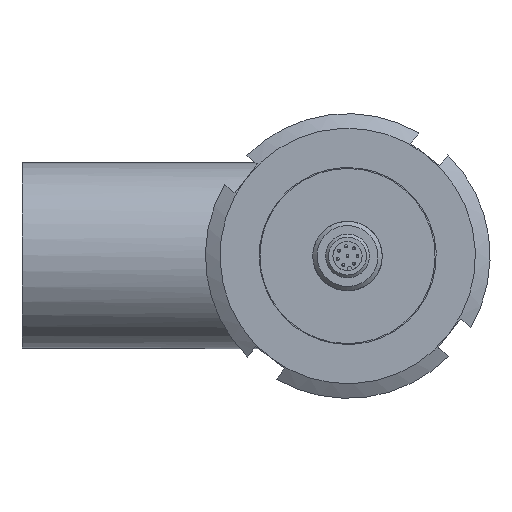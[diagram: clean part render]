
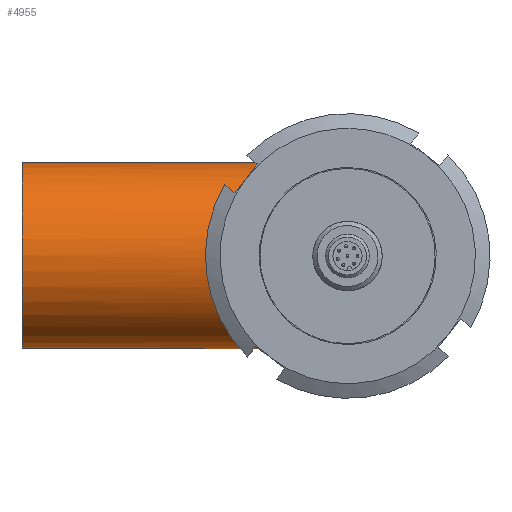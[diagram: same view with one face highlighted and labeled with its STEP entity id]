
A CAD part, front view. The second image highlights one B-rep face of the part: STEP entity #4955.
In plain terms, the highlighted cylindrical face has radius 25.475 mm (diameter 50.951 mm), a full revolution.
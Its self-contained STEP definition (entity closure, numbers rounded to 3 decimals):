
#53=ELLIPSE('',#5266,36.027,25.475);
#54=ELLIPSE('',#5267,36.027,25.475);
#667=CYLINDRICAL_SURFACE('',#5265,25.475);
#1612=ORIENTED_EDGE('',*,*,#2105,.T.);
#1613=ORIENTED_EDGE('',*,*,#2107,.T.);
#1614=ORIENTED_EDGE('',*,*,#2108,.T.);
#2105=EDGE_CURVE('',#2449,#2449,#2582,.T.);
#2107=EDGE_CURVE('',#2451,#2452,#53,.T.);
#2108=EDGE_CURVE('',#2452,#2451,#54,.F.);
#2449=VERTEX_POINT('',#11368);
#2451=VERTEX_POINT('',#11374);
#2452=VERTEX_POINT('',#11375);
#2582=CIRCLE('',#5262,25.475);
#2901=EDGE_LOOP('',(#1612));
#2902=EDGE_LOOP('',(#1613,#1614));
#3238=FACE_BOUND('',#2901,.T.);
#3239=FACE_BOUND('',#2902,.T.);
#4955=ADVANCED_FACE('',(#3238,#3239),#667,.T.);
#5262=AXIS2_PLACEMENT_3D('',#11367,#5984,#5985);
#5265=AXIS2_PLACEMENT_3D('',#11372,#5990,#5991);
#5266=AXIS2_PLACEMENT_3D('',#11373,#5992,#5993);
#5267=AXIS2_PLACEMENT_3D('',#11376,#5994,#5995);
#5984=DIRECTION('',(1.,0.,-0.002));
#5985=DIRECTION('',(0.,1.,0.));
#5990=DIRECTION('',(1.,0.,-0.002));
#5991=DIRECTION('',(-0.002,0.,-1.));
#5992=DIRECTION('',(-0.707,-0.707,0.002));
#5993=DIRECTION('',(0.707,-0.707,-0.002));
#5994=DIRECTION('',(0.707,-0.707,-0.002));
#5995=DIRECTION('',(-0.707,-0.707,0.002));
#11367=CARTESIAN_POINT('',(-89.19,-10.141,0.205));
#11368=CARTESIAN_POINT('',(-89.19,15.334,0.205));
#11372=CARTESIAN_POINT('',(-91.19,-10.141,0.21));
#11373=CARTESIAN_POINT('',(0.,-10.141,0.));
#11374=CARTESIAN_POINT('',(0.059,-10.141,25.475));
#11375=CARTESIAN_POINT('',(-0.059,-10.141,-25.475));
#11376=CARTESIAN_POINT('',(0.,-10.141,0.));
